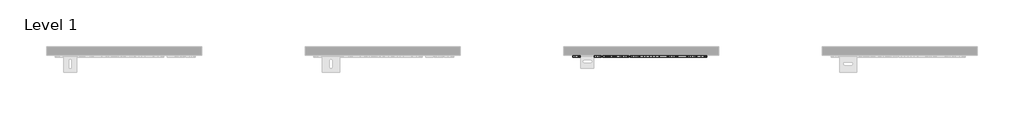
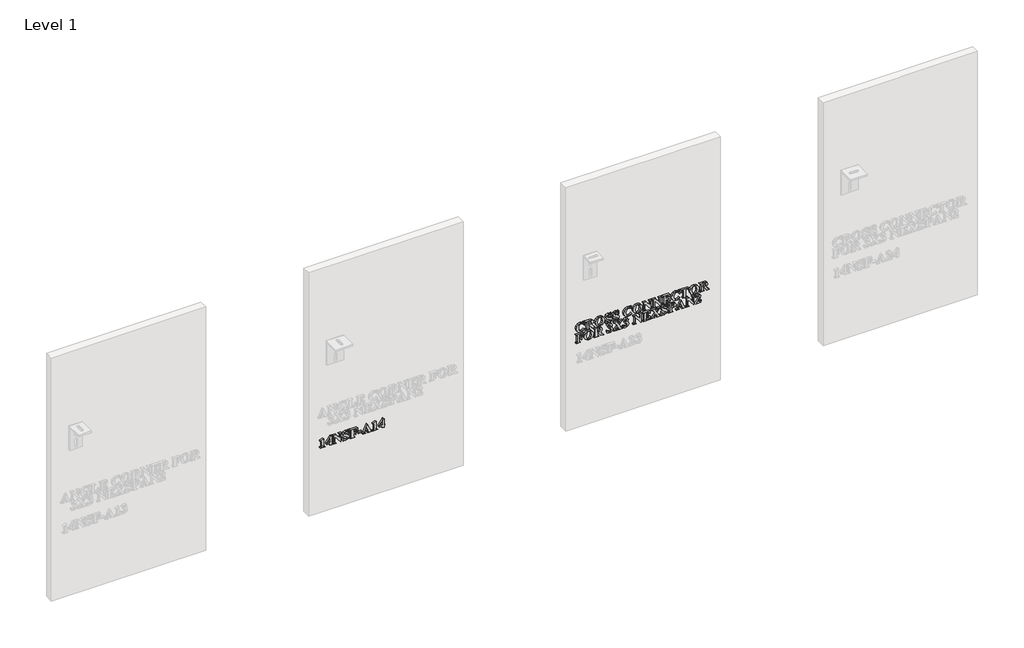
# One storey, part 5 of 21: 2 proxies.
"""IFC4 building model written with IfcOpenShell, lengths in millimetres."""

from ifc_helpers import new_model, si_unit, frame, origin, place, context, project, spatial, polyline, outline, extrude, element, save

model = new_model("IFC4")

# Units and contexts
model_context = context("Model", 3, world=origin())
ifc_project = project(units=[si_unit("LENGTHUNIT", "METRE", prefix="MILLI")], contexts=[model_context])

# Site, building, storey
site = spatial("IfcSite", under=ifc_project)
building = spatial("IfcBuilding", under=site)
storey = spatial("IfcBuildingStorey", under=building, Name="Level 1", Elevation=0.0)

# Proxies
placement = place(None, origin())
element("IfcBuildingElementProxy", 1, Name="2\"\" Arial", ObjectType="2\"\" Arial", at=placement, inside=storey, context=model_context, shape_type="SweptSolid", body=[
    extrude(outline(polyline([(463.8692305, 3912.4026674), (455.0050049, 3892.6451396), (453.2321598, 3893.3099565), (454.4648412, 3897.8667225), (453.827725, 3899.9442753), (452.3111114, 3901.1769567), (447.9136245, 3901.5093652), (421.3209478, 3901.5093652), (415.2544934, 3900.9899769), (413.2046413, 3899.0024514), (412.4567222, 3892.6451396), (410.6838771, 3892.6451396), (410.6838771, 3921.0106614), (412.4567222, 3919.77798), (413.273893, 3915.3043162), (415.3791466, 3913.4691445), (421.3209478, 3913.0328584), (463.8692305, 3912.4026674)])), frame((0.0, -15490.3579358, 0.0), z_axis=(0.0, 1.0, 0.0), x_axis=(0.0, 0.0, 1.0)), (0.0, 0.0, 1.0), 12.7),
    extrude(outline(polyline([(430.1851733, 3929.874887), (422.2073703, 3929.874887), (422.2073703, 3948.4897607), (410.6838771, 3948.4897607), (410.6838771, 3960.0132539), (422.2073703, 3960.0132539), (422.2073703, 3964.4453667), (430.1851733, 3964.4453667), (430.1851733, 3960.0132539), (463.8692305, 3960.0132539), (463.8692305, 3954.9024738), (430.1851733, 3929.874887)]), holes=[polyline([(430.1851733, 3932.5618553), (451.6116686, 3948.4897607), (430.1851733, 3948.4897607), (430.1851733, 3932.5618553)])]), frame((0.0, -15490.3579358, 0.0), z_axis=(0.0, 1.0, 0.0), x_axis=(0.0, 0.0, 1.0)), (0.0, 0.0, 1.0), 12.7),
    extrude(outline(polyline([(462.9828079, 3987.0768426), (462.9828079, 3968.6558738), (461.2099628, 3968.6558738), (460.6074725, 3972.319292), (457.4565173, 3975.9688599), (419.5481027, 3975.9688599), (414.097989, 3974.4106952), (412.4567222, 3968.8774794), (410.6838771, 3968.8774794), (410.6838771, 3986.6059306), (412.4567222, 3985.5117527), (413.9179344, 3981.3358715), (419.5481027, 3979.5145501), (452.9551528, 3979.5145501), (409.7974546, 4013.3371108), (409.7974546, 4014.9714524), (452.3457373, 4014.9714524), (457.7820006, 4015.6293441), (460.0673087, 4017.4645158), (461.2099628, 4022.0628328), (462.9828079, 4022.0628328), (462.9828079, 4004.3343817), (461.2099628, 4004.3343817), (458.9662057, 4010.1653801), (452.3457373, 4011.4257622), (431.9164674, 4011.4257622), (462.9828079, 3987.0768426)])), frame((0.0, -15490.3579358, 0.0), z_axis=(0.0, 1.0, 0.0), x_axis=(0.0, 0.0, 1.0)), (0.0, 0.0, 1.0), 12.7),
    extrude(outline(polyline([(463.8692305, 4062.8382704), (463.8692305, 4061.0654253), (460.9329558, 4059.9573971), (460.3235403, 4058.3230555), (461.5631468, 4054.5626848), (463.259815, 4050.0128441), (463.8692305, 4044.9297647), (459.5409954, 4032.9976861), (449.0493534, 4028.2677907), (442.4427353, 4029.9021323), (437.0064719, 4034.5835514), (431.0992966, 4045.4283774), (427.0549937, 4053.1845748), (423.7863105, 4056.4463328), (420.2267699, 4057.5197351), (414.7905066, 4054.8535422), (412.4567222, 4047.6859848), (416.771107, 4036.8342337), (429.2987508, 4030.0406358), (429.2987508, 4028.2677907), (409.7974546, 4028.2677907), (409.7974546, 4030.0406358), (412.4705726, 4031.8619572), (413.3431448, 4034.0018366), (412.4844229, 4037.0627645), (410.3583938, 4042.6098307), (409.7974546, 4047.298175), (414.4788737, 4060.3590573), (425.6699585, 4065.4975381), (434.76964, 4062.8798215), (443.218355, 4050.1928986), (447.7058692, 4041.051666), (451.2654098, 4037.1320163), (454.3263377, 4036.2455937), (459.1254848, 4038.6694054), (461.2099628, 4045.2483228), (457.0756326, 4055.2621276), (446.1407794, 4061.0654253), (446.1407794, 4062.8382704), (463.8692305, 4062.8382704)])), frame((0.0, -15490.3579358, 0.0), z_axis=(0.0, 1.0, 0.0), x_axis=(0.0, 0.0, 1.0)), (0.0, 0.0, 1.0), 12.7),
    extrude(outline(polyline([(459.4371177, 4089.4309471), (459.4371177, 4093.8630599), (458.8415526, 4102.4225777), (455.1296581, 4108.8352909), (447.0272019, 4111.591511), (447.0272019, 4113.3643561), (462.9828079, 4113.3643561), (462.9828079, 4069.9296509), (461.2099628, 4069.9296509), (461.2099628, 4071.6055435), (460.5035948, 4074.9573288), (458.8484777, 4076.6124459), (454.1185824, 4077.0210313), (419.5481027, 4077.0210313), (414.963636, 4076.6193711), (413.2184916, 4075.123533), (412.4567222, 4071.6055435), (412.4567222, 4069.9296509), (410.6838771, 4069.9296509), (410.6838771, 4096.5223276), (412.4567222, 4096.5223276), (412.4567222, 4094.8602853), (413.1630902, 4091.5154252), (414.8182073, 4089.8533829), (419.5481027, 4089.4309471), (435.5037087, 4089.4309471), (435.5037087, 4091.2037922), (433.0868222, 4098.1151181), (423.0937929, 4101.8408629), (423.0937929, 4103.613708), (451.4593147, 4103.613708), (451.4593147, 4101.8408629), (444.0770768, 4099.9849157), (440.1989782, 4096.501552), (439.0493989, 4091.2037922), (439.0493989, 4089.4309471), (459.4371177, 4089.4309471)])), frame((0.0, -15490.3579358, 0.0), z_axis=(0.0, 1.0, 0.0), x_axis=(0.0, 0.0, 1.0)), (0.0, 0.0, 1.0), 12.7),
    extrude(outline(polyline([(4139.0706103, -15490.3579358), (4116.9100464, -15490.3579358), (4116.9100464, -15477.6579358), (4139.0706103, -15477.6579358), (4139.0706103, -15490.3579358)])), frame((0.0, 0.0, 424.866638), z_axis=(0.0, 0.0, 1.0), x_axis=(1.0, 0.0, 0.0)), (0.0, 0.0, 1.0), 7.977803),
    extrude(outline(polyline([(425.7530606, 4174.9153224), (419.1048914, 4177.8377468), (414.963636, 4179.222782), (413.273893, 4178.3779105), (412.4567222, 4173.0593752), (410.6838771, 4173.0593752), (410.6838771, 4198.4609215), (412.4567222, 4198.4609215), (413.8140568, 4194.7628774), (421.3070974, 4190.3307647), (463.8692305, 4170.6771145), (422.470527, 4151.8544856), (414.7420304, 4147.3877469), (412.4567222, 4142.7686544), (410.6838771, 4142.7686544), (410.6838771, 4160.5386566), (412.4567222, 4160.5386566), (413.3431448, 4155.4140261), (416.4317734, 4153.641181), (420.4345252, 4154.7215085), (425.7530606, 4157.1314699), (425.7530606, 4174.9153224)]), holes=[polyline([(429.2987508, 4173.3640829), (429.2987508, 4158.7381107), (445.6421667, 4166.1480493), (429.2987508, 4173.3640829)])]), frame((0.0, -15490.3579358, 0.0), z_axis=(0.0, 1.0, 0.0), x_axis=(0.0, 0.0, 1.0)), (0.0, 0.0, 1.0), 12.7),
    extrude(outline(polyline([(463.8692305, 4223.5369846), (455.0050049, 4203.7794569), (453.2321598, 4204.4442738), (454.4648412, 4209.0010397), (453.827725, 4211.0785926), (452.3111114, 4212.311274), (447.9136245, 4212.6436824), (421.3209478, 4212.6436824), (415.2544934, 4212.1242942), (413.2046413, 4210.1367686), (412.4567222, 4203.7794569), (410.6838771, 4203.7794569), (410.6838771, 4232.1449787), (412.4567222, 4230.9122973), (413.273893, 4226.4386335), (415.3791466, 4224.6034618), (421.3209478, 4224.1671757), (463.8692305, 4223.5369846)])), frame((0.0, -15490.3579358, 0.0), z_axis=(0.0, 1.0, 0.0), x_axis=(0.0, 0.0, 1.0)), (0.0, 0.0, 1.0), 12.7),
    extrude(outline(polyline([(430.1851733, 4241.0092042), (422.2073703, 4241.0092042), (422.2073703, 4259.6240779), (410.6838771, 4259.6240779), (410.6838771, 4271.1475712), (422.2073703, 4271.1475712), (422.2073703, 4275.5796839), (430.1851733, 4275.5796839), (430.1851733, 4271.1475712), (463.8692305, 4271.1475712), (463.8692305, 4266.0367911), (430.1851733, 4241.0092042)]), holes=[polyline([(430.1851733, 4243.6961726), (451.6116686, 4259.6240779), (430.1851733, 4259.6240779), (430.1851733, 4243.6961726)])]), frame((0.0, -15490.3579358, 0.0), z_axis=(0.0, 1.0, 0.0), x_axis=(0.0, 0.0, 1.0)), (0.0, 0.0, 1.0), 12.7),
])
element("IfcBuildingElementProxy", 2, Name="2\"\" Arial", ObjectType="2\"\" Arial", at=placement, inside=storey, context=model_context, shape_type="SweptSolid", body=[
    extrude(outline(polyline([(653.4647125, 5457.2755351), (653.4647125, 5455.50269), (650.7708189, 5454.3531107), (649.9190223, 5452.2617075), (651.2209554, 5447.8572954), (653.4647125, 5436.4723057), (649.8012943, 5422.6704295), (639.5035572, 5412.3449918), (625.4731502, 5408.5222945), (612.2460636, 5411.9918078), (602.710096, 5421.8463335), (599.3929366, 5436.4584554), (601.4220132, 5447.3863834), (607.9663047, 5456.3891125), (612.4676693, 5456.3891125), (605.0785062, 5448.0165745), (602.9386268, 5439.2700769), (605.854126, 5429.7964358), (614.4551948, 5424.4224991), (627.0797911, 5422.7050554), (639.8636664, 5425.0319146), (647.1420266, 5430.7659605), (649.9190223, 5439.3808797), (646.2625292, 5449.4431608), (635.7362614, 5455.50269), (635.7362614, 5457.2755351), (653.4647125, 5457.2755351)])), frame((0.0, -15490.3579358, 0.0), z_axis=(0.0, 1.0, 0.0), x_axis=(0.0, 0.0, 1.0)), (0.0, 0.0, 1.0), 12.7),
    extrude(outline(polyline([(624.2127681, 5482.9817892), (624.2127681, 5486.4166766), (600.2793591, 5503.2033038), (600.2793591, 5519.325114), (602.0522042, 5519.325114), (603.3956884, 5516.0564309), (607.7723998, 5512.9124009), (625.4592998, 5500.5024851), (628.9911397, 5507.455362), (638.395529, 5511.347311), (646.5326111, 5508.5841657), (651.2902072, 5501.4512342), (652.5782899, 5487.649358), (652.5782899, 5463.480493), (650.8054448, 5463.480493), (650.2029545, 5468.2657898), (648.5963136, 5470.0594104), (643.7140644, 5470.5718734), (609.1435847, 5470.5718734), (604.2751858, 5470.0594104), (602.6685449, 5468.2865653), (602.0522042, 5463.480493), (600.2793591, 5463.480493), (600.2793591, 5490.0731697), (602.0522042, 5490.0731697), (602.6546946, 5485.2878729), (604.2613354, 5483.4942523), (609.1435847, 5482.9817892), (624.2127681, 5482.9817892)]), holes=[polyline([(649.9190223, 5482.9817892), (649.9190223, 5487.1091942), (647.0450741, 5496.139624), (638.160073, 5498.9373952), (631.4288018, 5497.4138565), (627.862336, 5493.2241249), (626.8720358, 5485.1839953), (626.8720358, 5482.9817892), (649.9190223, 5482.9817892)])]), frame((0.0, -15490.3579358, 0.0), z_axis=(0.0, 1.0, 0.0), x_axis=(0.0, 0.0, 1.0)), (0.0, 0.0, 1.0), 12.7),
    extrude(outline(polyline([(653.4647125, 5549.1172221), (651.8788471, 5538.5753726), (646.1794271, 5529.8306064), (637.4606302, 5523.9459379), (626.8166344, 5521.9843817), (617.1733265, 5523.4906075), (608.9358294, 5528.009285), (601.7786598, 5537.2266946), (599.3929366, 5549.6158348), (601.8929252, 5561.9738118), (609.392891, 5571.1808336), (626.8581854, 5576.9425802), (637.4969874, 5575.010456), (646.2002026, 5569.2140835), (651.884041, 5560.3256199), (653.4647125, 5549.1172221)]), holes=[polyline([(650.8054448, 5549.5742838), (648.6863409, 5556.1878271), (641.4356814, 5560.9107972), (625.9440622, 5562.7598193), (611.8444034, 5560.9454231), (603.9774032, 5555.8761941), (602.0522042, 5549.505032), (606.5120177, 5540.6823575), (626.2487699, 5536.1671426), (643.4924587, 5539.089567), (648.9771983, 5543.511292), (650.8054448, 5549.5742838)])]), frame((0.0, -15490.3579358, 0.0), z_axis=(0.0, 1.0, 0.0), x_axis=(0.0, 0.0, 1.0)), (0.0, 0.0, 1.0), 12.7),
    extrude(outline(polyline([(653.4647125, 5618.6044403), (653.4647125, 5616.8315952), (650.5284378, 5615.723567), (649.9190223, 5614.0892254), (651.1586288, 5610.3288548), (652.855297, 5605.779014), (653.4647125, 5600.6959346), (649.1364773, 5588.763856), (638.6448354, 5584.0339606), (632.0382173, 5585.6683022), (626.6019539, 5590.3497214), (620.6947786, 5601.1945473), (616.6504757, 5608.9507447), (613.3817925, 5612.2125027), (609.8222519, 5613.285905), (604.3859886, 5610.6197122), (602.0522042, 5603.4521548), (606.366589, 5592.6004036), (618.8942328, 5585.8068058), (618.8942328, 5584.0339606), (599.3929366, 5584.0339606), (599.3929366, 5585.8068058), (602.0660546, 5587.6281271), (602.9386268, 5589.7680066), (602.0799049, 5592.8289344), (599.9538758, 5598.3760006), (599.3929366, 5603.0643449), (604.0743557, 5616.1252273), (615.2654405, 5621.263708), (624.365122, 5618.6459914), (632.813837, 5605.9590686), (637.3013512, 5596.8178359), (640.8608918, 5592.8981862), (643.9218197, 5592.0117637), (648.7209668, 5594.4355753), (650.8054448, 5601.0144927), (646.6711146, 5611.0282976), (635.7362614, 5616.8315952), (635.7362614, 5618.6044403), (653.4647125, 5618.6044403)])), frame((0.0, -15490.3579358, 0.0), z_axis=(0.0, 1.0, 0.0), x_axis=(0.0, 0.0, 1.0)), (0.0, 0.0, 1.0), 12.7),
    extrude(outline(polyline([(653.4647125, 5662.0391456), (653.4647125, 5660.2663005), (650.5284378, 5659.1582723), (649.9190223, 5657.5239307), (651.1586288, 5653.76356), (652.855297, 5649.2137192), (653.4647125, 5644.1306399), (649.1364773, 5632.1985613), (638.6448354, 5627.4686659), (632.0382173, 5629.1030075), (626.6019539, 5633.7844266), (620.6947786, 5644.6292526), (616.6504757, 5652.38545), (613.3817925, 5655.647208), (609.8222519, 5656.7206103), (604.3859886, 5654.0544174), (602.0522042, 5646.88686), (606.366589, 5636.0351089), (618.8942328, 5629.241511), (618.8942328, 5627.4686659), (599.3929366, 5627.4686659), (599.3929366, 5629.241511), (602.0660546, 5631.0628324), (602.9386268, 5633.2027118), (602.0799049, 5636.2636397), (599.9538758, 5641.8107059), (599.3929366, 5646.4990502), (604.0743557, 5659.5599325), (615.2654405, 5664.6984133), (624.365122, 5662.0806967), (632.813837, 5649.3937738), (637.3013512, 5640.2525412), (640.8608918, 5636.3328915), (643.9218197, 5635.4464689), (648.7209668, 5637.8702806), (650.8054448, 5644.449198), (646.6711146, 5654.4630028), (635.7362614, 5660.2663005), (635.7362614, 5662.0391456), (653.4647125, 5662.0391456)])), frame((0.0, -15490.3579358, 0.0), z_axis=(0.0, 1.0, 0.0), x_axis=(0.0, 0.0, 1.0)), (0.0, 0.0, 1.0), 12.7),
    extrude(outline(polyline([(653.4647125, 5738.2714854), (653.4647125, 5736.4986403), (650.7708189, 5735.3490611), (649.9190223, 5733.2576579), (651.2209554, 5728.8532458), (653.4647125, 5717.4682561), (649.8012943, 5703.6663799), (639.5035572, 5693.3409421), (625.4731502, 5689.5182448), (612.2460636, 5692.9877581), (602.710096, 5702.8422839), (599.3929366, 5717.4544057), (601.4220132, 5728.3823338), (607.9663047, 5737.3850629), (612.4676693, 5737.3850629), (605.0785062, 5729.0125248), (602.9386268, 5720.2660273), (605.854126, 5710.7923862), (614.4551948, 5705.4184495), (627.0797911, 5703.7010058), (639.8636664, 5706.027865), (647.1420266, 5711.7619109), (649.9190223, 5720.3768301), (646.2625292, 5730.4391111), (635.7362614, 5736.4986403), (635.7362614, 5738.2714854), (653.4647125, 5738.2714854)])), frame((0.0, -15490.3579358, 0.0), z_axis=(0.0, 1.0, 0.0), x_axis=(0.0, 0.0, 1.0)), (0.0, 0.0, 1.0), 12.7),
    extrude(outline(polyline([(653.4647125, 5773.3821289), (651.8788471, 5762.8402794), (646.1794271, 5754.0955131), (637.4606302, 5748.2108446), (626.8166344, 5746.2492885), (617.1733265, 5747.7555143), (608.9358294, 5752.2741918), (601.7786598, 5761.4916013), (599.3929366, 5773.8807416), (601.8929252, 5786.2387185), (609.392891, 5795.4457403), (626.8581854, 5801.2074869), (637.4969874, 5799.2753628), (646.2002026, 5793.4789903), (651.884041, 5784.5905266), (653.4647125, 5773.3821289)]), holes=[polyline([(650.8054448, 5773.8391905), (648.6863409, 5780.4527338), (641.4356814, 5785.175704), (625.9440622, 5787.024726), (611.8444034, 5785.2103299), (603.9774032, 5780.1411009), (602.0522042, 5773.7699388), (606.5120177, 5764.9472643), (626.2487699, 5760.4320494), (643.4924587, 5763.3544737), (648.9771983, 5767.7761987), (650.8054448, 5773.8391905)])]), frame((0.0, -15490.3579358, 0.0), z_axis=(0.0, 1.0, 0.0), x_axis=(0.0, 0.0, 1.0)), (0.0, 0.0, 1.0), 12.7),
    extrude(outline(polyline([(652.5782899, 5823.8389628), (652.5782899, 5805.4179941), (650.8054448, 5805.4179941), (650.2029545, 5809.0814123), (647.0519993, 5812.7309802), (609.1435847, 5812.7309802), (603.693471, 5811.1728155), (602.0522042, 5805.6395997), (600.2793591, 5805.6395997), (600.2793591, 5823.3680509), (602.0522042, 5822.273873), (603.5134164, 5818.0979918), (609.1435847, 5816.2766704), (642.5506348, 5816.2766704), (599.3929366, 5850.0992311), (599.3929366, 5851.7335727), (641.9412193, 5851.7335727), (647.3774826, 5852.3914644), (649.6627907, 5854.2266361), (650.8054448, 5858.8249531), (652.5782899, 5858.8249531), (652.5782899, 5841.096502), (650.8054448, 5841.096502), (648.5616877, 5846.9275004), (641.9412193, 5848.1878824), (621.5119494, 5848.1878824), (652.5782899, 5823.8389628)])), frame((0.0, -15490.3579358, 0.0), z_axis=(0.0, 1.0, 0.0), x_axis=(0.0, 0.0, 1.0)), (0.0, 0.0, 1.0), 12.7),
    extrude(outline(polyline([(652.5782899, 5880.5700064), (652.5782899, 5862.1490377), (650.8054448, 5862.1490377), (650.2029545, 5865.8124559), (647.0519993, 5869.4620238), (609.1435847, 5869.4620238), (603.693471, 5867.9038591), (602.0522042, 5862.3706433), (600.2793591, 5862.3706433), (600.2793591, 5880.0990945), (602.0522042, 5879.0049166), (603.5134164, 5874.8290354), (609.1435847, 5873.007714), (642.5506348, 5873.007714), (599.3929366, 5906.8302747), (599.3929366, 5908.4646163), (641.9412193, 5908.4646163), (647.3774826, 5909.122508), (649.6627907, 5910.9576797), (650.8054448, 5915.5559967), (652.5782899, 5915.5559967), (652.5782899, 5897.8275456), (650.8054448, 5897.8275456), (648.5616877, 5903.658544), (641.9412193, 5904.918926), (621.5119494, 5904.918926), (652.5782899, 5880.5700064)])), frame((0.0, -15490.3579358, 0.0), z_axis=(0.0, 1.0, 0.0), x_axis=(0.0, 0.0, 1.0)), (0.0, 0.0, 1.0), 12.7),
    extrude(outline(polyline([(649.0325997, 5939.4894057), (649.0325997, 5943.9215185), (648.3400821, 5951.9547229), (644.7320653, 5957.6472178), (636.6226839, 5960.7635471), (636.6226839, 5962.5363922), (652.5782899, 5962.5363922), (652.5782899, 5919.9881095), (650.8054448, 5919.9881095), (650.8054448, 5921.6640021), (649.7805187, 5925.5144001), (647.827619, 5926.8994354), (643.7140644, 5927.0794899), (609.1435847, 5927.0794899), (604.559118, 5926.6778297), (602.8139736, 5925.1819917), (602.0522042, 5921.6640021), (602.0522042, 5919.9881095), (600.2793591, 5919.9881095), (600.2793591, 5963.7967743), (616.8859317, 5964.7385982), (606.4427659, 5958.6236676), (602.9386268, 5947.3010045), (602.9386268, 5944.2816277), (603.5549675, 5941.1652984), (605.1339076, 5939.8425897), (610.4039667, 5939.4894057), (625.0991907, 5939.4894057), (624.0950401, 5944.4963081), (620.1753904, 5947.5295353), (612.6892749, 5949.2400539), (612.6892749, 5951.012899), (640.1683741, 5951.012899), (640.1683741, 5949.2400539), (630.9024884, 5946.7331401), (627.7584584, 5939.4894057), (649.0325997, 5939.4894057)])), frame((0.0, -15490.3579358, 0.0), z_axis=(0.0, 1.0, 0.0), x_axis=(0.0, 0.0, 1.0)), (0.0, 0.0, 1.0), 12.7),
    extrude(outline(polyline([(653.4647125, 6021.9267035), (653.4647125, 6020.1538584), (650.7708189, 6019.0042791), (649.9190223, 6016.9128759), (651.2209554, 6012.5084638), (653.4647125, 6001.1234741), (649.8012943, 5987.3215979), (639.5035572, 5976.9961602), (625.4731502, 5973.1734629), (612.2460636, 5976.6429762), (602.710096, 5986.4975019), (599.3929366, 6001.1096238), (601.4220132, 6012.0375518), (607.9663047, 6021.0402809), (612.4676693, 6021.0402809), (605.0785062, 6012.6677429), (602.9386268, 6003.9212453), (605.854126, 5994.4476042), (614.4551948, 5989.0736675), (627.0797911, 5987.3562238), (639.8636664, 5989.683083), (647.1420266, 5995.4171289), (649.9190223, 6004.0320481), (646.2625292, 6014.0943292), (635.7362614, 6020.1538584), (635.7362614, 6021.9267035), (653.4647125, 6021.9267035)])), frame((0.0, -15490.3579358, 0.0), z_axis=(0.0, 1.0, 0.0), x_axis=(0.0, 0.0, 1.0)), (0.0, 0.0, 1.0), 12.7),
    extrude(outline(polyline([(652.5782899, 6075.9984794), (652.5782899, 6029.9045065), (637.5091065, 6029.9045065), (637.5091065, 6031.6773516), (646.7195908, 6035.7770559), (649.0325997, 6043.2008448), (649.0325997, 6046.7465351), (609.1435847, 6046.7465351), (604.559118, 6046.3448748), (602.8139736, 6044.8213361), (602.0522042, 6041.3171969), (602.0522042, 6039.6551546), (600.2793591, 6039.6551546), (600.2793591, 6066.2478313), (602.0522042, 6066.2478313), (602.0522042, 6064.5996394), (602.7585722, 6061.2340037), (604.4136893, 6059.5788866), (609.1435847, 6059.1564508), (649.0325997, 6059.1564508), (649.0325997, 6062.7021411), (648.3123814, 6067.6328665), (644.7874667, 6071.5940673), (637.5091065, 6074.2256343), (637.5091065, 6075.9984794), (652.5782899, 6075.9984794)])), frame((0.0, -15490.3579358, 0.0), z_axis=(0.0, 1.0, 0.0), x_axis=(0.0, 0.0, 1.0)), (0.0, 0.0, 1.0), 12.7),
    extrude(outline(polyline([(653.4647125, 6109.3362777), (651.8788471, 6098.7944282), (646.1794271, 6090.049662), (637.4606302, 6084.1649935), (626.8166344, 6082.2034373), (617.1733265, 6083.7096631), (608.9358294, 6088.2283406), (601.7786598, 6097.4457502), (599.3929366, 6109.8348904), (601.8929252, 6122.1928674), (609.392891, 6131.3998892), (626.8581854, 6137.1616358), (637.4969874, 6135.2295116), (646.2002026, 6129.4331391), (651.884041, 6120.5446755), (653.4647125, 6109.3362777)]), holes=[polyline([(650.8054448, 6109.7933394), (648.6863409, 6116.4068827), (641.4356814, 6121.1298529), (625.9440622, 6122.9788749), (611.8444034, 6121.1644787), (603.9774032, 6116.0952497), (602.0522042, 6109.7240876), (606.5120177, 6100.9014131), (626.2487699, 6096.3861982), (643.4924587, 6099.3086226), (648.9771983, 6103.7303476), (650.8054448, 6109.7933394)])]), frame((0.0, -15490.3579358, 0.0), z_axis=(0.0, 1.0, 0.0), x_axis=(0.0, 0.0, 1.0)), (0.0, 0.0, 1.0), 12.7),
    extrude(outline(polyline([(624.2127681, 6161.0950448), (624.2127681, 6164.5299322), (600.2793591, 6181.3165594), (600.2793591, 6197.4383696), (602.0522042, 6197.4383696), (603.3956884, 6194.1696865), (607.7723998, 6191.0256565), (625.4592998, 6178.6157407), (628.9911397, 6185.5686176), (638.395529, 6189.4605666), (646.5326111, 6186.6974213), (651.2902072, 6179.5644898), (652.5782899, 6165.7626136), (652.5782899, 6141.5937486), (650.8054448, 6141.5937486), (650.2029545, 6146.3790454), (648.5963136, 6148.172666), (643.7140644, 6148.685129), (609.1435847, 6148.685129), (604.2751858, 6148.172666), (602.6685449, 6146.3998209), (602.0522042, 6141.5937486), (600.2793591, 6141.5937486), (600.2793591, 6168.1864253), (602.0522042, 6168.1864253), (602.6546946, 6163.4011285), (604.2613354, 6161.6075079), (609.1435847, 6161.0950448), (624.2127681, 6161.0950448)]), holes=[polyline([(649.9190223, 6161.0950448), (649.9190223, 6165.2224499), (647.0450741, 6174.2528796), (638.160073, 6177.0506508), (631.4288018, 6175.5271121), (627.862336, 6171.3373805), (626.8720358, 6163.2972509), (626.8720358, 6161.0950448), (649.9190223, 6161.0950448)])]), frame((0.0, -15490.3579358, 0.0), z_axis=(0.0, 1.0, 0.0), x_axis=(0.0, 0.0, 1.0)), (0.0, 0.0, 1.0), 12.7),
    extrude(outline(polyline([(584.9362614, 5427.1371682), (584.9362614, 5431.569281), (584.3406962, 5440.1287988), (580.6288018, 5446.5415119), (572.5263456, 5449.2977321), (572.5263456, 5451.0705772), (588.4819516, 5451.0705772), (588.4819516, 5407.6358719), (586.7091065, 5407.6358719), (586.7091065, 5409.3117646), (586.0027385, 5412.6635499), (584.3476214, 5414.318667), (579.617726, 5414.7272524), (545.0472463, 5414.7272524), (540.4627797, 5414.3255922), (538.7176353, 5412.8297541), (537.9558659, 5409.3117646), (537.9558659, 5407.6358719), (536.1830208, 5407.6358719), (536.1830208, 5434.2285486), (537.9558659, 5434.2285486), (537.9558659, 5432.5665063), (538.6622338, 5429.2216462), (540.317351, 5427.5596039), (545.0472463, 5427.1371682), (561.0028523, 5427.1371682), (561.0028523, 5428.9100133), (558.5859658, 5435.8213392), (548.5929366, 5439.547084), (548.5929366, 5441.3199291), (576.9584584, 5441.3199291), (576.9584584, 5439.547084), (569.5762205, 5437.6911367), (565.6981218, 5434.2077731), (564.5485426, 5428.9100133), (564.5485426, 5427.1371682), (584.9362614, 5427.1371682)])), frame((0.0, -15490.3579358, 0.0), z_axis=(0.0, 1.0, 0.0), x_axis=(0.0, 0.0, 1.0)), (0.0, 0.0, 1.0), 12.7),
    extrude(outline(polyline([(589.3683741, 5483.521953), (587.7825088, 5472.9801035), (582.0830888, 5464.2353372), (573.3642919, 5458.3506687), (562.720296, 5456.3891125), (553.0769882, 5457.8953384), (544.839491, 5462.4140158), (537.6823214, 5471.6314254), (535.2965982, 5484.0205657), (537.7965868, 5496.3785426), (545.2965527, 5505.5855644), (562.7618471, 5511.347311), (573.4006491, 5509.4151869), (582.1038643, 5503.6188144), (587.7877027, 5494.7303507), (589.3683741, 5483.521953)]), holes=[polyline([(586.7091065, 5483.9790146), (584.5900026, 5490.5925579), (577.339343, 5495.3155281), (561.8477238, 5497.1645501), (547.7480651, 5495.350154), (539.8810649, 5490.280925), (537.9558659, 5483.9097628), (542.4156794, 5475.0870883), (562.1524316, 5470.5718734), (579.3961204, 5473.4942978), (584.88086, 5477.9160228), (586.7091065, 5483.9790146)])]), frame((0.0, -15490.3579358, 0.0), z_axis=(0.0, 1.0, 0.0), x_axis=(0.0, 0.0, 1.0)), (0.0, 0.0, 1.0), 12.7),
    extrude(outline(polyline([(560.1164298, 5535.28072), (560.1164298, 5538.7156075), (536.1830208, 5555.5022346), (536.1830208, 5571.6240449), (537.9558659, 5571.6240449), (539.2993501, 5568.3553617), (543.6760614, 5565.2113317), (561.3629615, 5552.8014159), (564.8948014, 5559.7542928), (574.2991907, 5563.6462418), (582.4362727, 5560.8830965), (587.1938688, 5553.750165), (588.4819516, 5539.9482888), (588.4819516, 5515.7794238), (586.7091065, 5515.7794238), (586.1066161, 5520.5647206), (584.4999753, 5522.3583412), (579.617726, 5522.8708043), (545.0472463, 5522.8708043), (540.1788474, 5522.3583412), (538.5722066, 5520.5854961), (537.9558659, 5515.7794238), (536.1830208, 5515.7794238), (536.1830208, 5542.3721005), (537.9558659, 5542.3721005), (538.5583562, 5537.5868037), (540.1649971, 5535.7931831), (545.0472463, 5535.28072), (560.1164298, 5535.28072)]), holes=[polyline([(585.8226839, 5535.28072), (585.8226839, 5539.4081251), (582.9487358, 5548.4385549), (574.0637347, 5551.2363261), (567.3324634, 5549.7127873), (563.7659977, 5545.5230557), (562.7756975, 5537.4829261), (562.7756975, 5535.28072), (585.8226839, 5535.28072)])]), frame((0.0, -15490.3579358, 0.0), z_axis=(0.0, 1.0, 0.0), x_axis=(0.0, 0.0, 1.0)), (0.0, 0.0, 1.0), 12.7),
    extrude(outline(polyline([(564.5485426, 5600.8759892), (558.3782106, 5612.7665168), (548.6206373, 5616.8315952), (542.8796662, 5614.7263417), (540.6151335, 5609.6848134), (543.7314628, 5602.4272287), (547.1524999, 5597.9258641), (547.706514, 5595.4605014), (546.2176011, 5592.4341994), (542.6234346, 5591.1253411), (537.9004645, 5593.3829485), (535.2965982, 5603.3275016), (536.8114805, 5612.5033601), (541.3561274, 5619.6155161), (548.0648919, 5624.1757446), (556.0721269, 5625.6958208), (564.6177943, 5622.8564985), (570.3518402, 5614.6155388), (574.5554222, 5621.0005513), (579.5207736, 5623.0365531), (586.4182491, 5619.4008356), (589.3683741, 5610.1695757), (586.9237869, 5600.2180975), (579.105263, 5593.7846088), (584.0498388, 5603.1751477), (581.6883537, 5609.1238741), (576.0304847, 5611.5130599), (571.3282901, 5610.2319023), (567.8795523, 5607.1917499), (564.5485426, 5600.8759892)])), frame((0.0, -15490.3579358, 0.0), z_axis=(0.0, 1.0, 0.0), x_axis=(0.0, 0.0, 1.0)), (0.0, 0.0, 1.0), 12.7),
    extrude(outline(polyline([(566.5845444, 5663.2302759), (578.4681468, 5672.7177673), (584.2021927, 5677.7315949), (586.1481672, 5680.6955703), (586.7091065, 5684.3520634), (588.4819516, 5684.3520634), (588.4819516, 5664.9200189), (586.7091065, 5664.9200189), (586.2243441, 5668.382607), (584.88086, 5670.1000507), (583.0110624, 5670.6956159), (575.9473826, 5666.457408), (569.5069687, 5661.3050769), (579.146814, 5654.9754659), (584.3406962, 5652.0530415), (586.0304392, 5652.939464), (586.7091065, 5657.3577265), (588.4819516, 5657.3577265), (588.4819516, 5631.8176766), (586.7091065, 5631.8176766), (585.9334867, 5634.5877471), (584.2021927, 5636.6237489), (579.0775623, 5640.363344), (559.4377625, 5653.2718725), (546.8616425, 5643.2026663), (539.7425613, 5636.000483), (537.9558659, 5630.6126959), (536.1830208, 5630.6126959), (536.1830208, 5650.9588636), (537.9558659, 5650.9588636), (538.1774715, 5647.6486294), (539.4655543, 5644.9131848), (541.4046036, 5643.9921364), (547.000146, 5647.5655273), (556.5291885, 5655.1832211), (545.781315, 5662.2469009), (540.4627797, 5665.2108763), (538.8422884, 5664.3244538), (537.9558659, 5660.404804), (536.1830208, 5660.404804), (536.1830208, 5685.6955476), (537.9558659, 5685.6955476), (539.2993501, 5682.0944559), (545.6428115, 5676.9836759), (566.5845444, 5663.2302759)])), frame((0.0, -15490.3579358, 0.0), z_axis=(0.0, 1.0, 0.0), x_axis=(0.0, 0.0, 1.0)), (0.0, 0.0, 1.0), 12.7),
    extrude(outline(polyline([(564.5485426, 5696.6096253), (558.3782106, 5708.5001529), (548.6206373, 5712.5652313), (542.8796662, 5710.4599777), (540.6151335, 5705.4184495), (543.7314628, 5698.1608648), (547.1524999, 5693.6595002), (547.706514, 5691.1941375), (546.2176011, 5688.1678355), (542.6234346, 5686.8589772), (537.9004645, 5689.1165846), (535.2965982, 5699.0611377), (536.8114805, 5708.2369962), (541.3561274, 5715.3491522), (548.0648919, 5719.9093807), (556.0721269, 5721.4294569), (564.6177943, 5718.5901346), (570.3518402, 5710.3491749), (574.5554222, 5716.7341874), (579.5207736, 5718.7701892), (586.4182491, 5715.1344717), (589.3683741, 5705.9032118), (586.9237869, 5695.9517336), (579.105263, 5689.5182448), (584.0498388, 5698.9087838), (581.6883537, 5704.8575102), (576.0304847, 5707.246696), (571.3282901, 5705.9655384), (567.8795523, 5702.925386), (564.5485426, 5696.6096253)])), frame((0.0, -15490.3579358, 0.0), z_axis=(0.0, 1.0, 0.0), x_axis=(0.0, 0.0, 1.0)), (0.0, 0.0, 1.0), 12.7),
    extrude(outline(polyline([(588.4819516, 5765.3350741), (588.4819516, 5746.9141054), (586.7091065, 5746.9141054), (586.1066161, 5750.5775236), (582.955661, 5754.2270915), (545.0472463, 5754.2270915), (539.5971326, 5752.6689268), (537.9558659, 5747.135711), (536.1830208, 5747.135711), (536.1830208, 5764.8641621), (537.9558659, 5763.7699843), (539.4170781, 5759.594103), (545.0472463, 5757.7727817), (578.4542964, 5757.7727817), (535.2965982, 5791.5953424), (535.2965982, 5793.2296839), (577.8448809, 5793.2296839), (583.2811442, 5793.8875757), (585.5664524, 5795.7227474), (586.7091065, 5800.3210644), (588.4819516, 5800.3210644), (588.4819516, 5782.5926133), (586.7091065, 5782.5926133), (584.4653494, 5788.4236116), (577.8448809, 5789.6839937), (557.4156111, 5789.6839937), (588.4819516, 5765.3350741)])), frame((0.0, -15490.3579358, 0.0), z_axis=(0.0, 1.0, 0.0), x_axis=(0.0, 0.0, 1.0)), (0.0, 0.0, 1.0), 12.7),
    extrude(outline(polyline([(584.9362614, 5824.2544734), (584.9362614, 5828.6865862), (584.2437437, 5836.7197906), (580.6357269, 5842.4122855), (572.5263456, 5845.5286148), (572.5263456, 5847.3014599), (588.4819516, 5847.3014599), (588.4819516, 5804.7531772), (586.7091065, 5804.7531772), (586.7091065, 5806.4290698), (585.6841804, 5810.2794678), (583.7312807, 5811.664503), (579.617726, 5811.8445576), (545.0472463, 5811.8445576), (540.4627797, 5811.4428974), (538.7176353, 5809.9470593), (537.9558659, 5806.4290698), (537.9558659, 5804.7531772), (536.1830208, 5804.7531772), (536.1830208, 5848.561842), (552.7895933, 5849.5036659), (542.3464276, 5843.3887353), (538.8422884, 5832.0660722), (538.8422884, 5829.0466954), (539.4586291, 5825.9303661), (541.0375693, 5824.6076574), (546.3076284, 5824.2544734), (561.0028523, 5824.2544734), (559.9987018, 5829.2613758), (556.079052, 5832.294603), (548.5929366, 5834.0051215), (548.5929366, 5835.7779666), (576.0720358, 5835.7779666), (576.0720358, 5834.0051215), (566.80615, 5831.4982077), (563.66212, 5824.2544734), (584.9362614, 5824.2544734)])), frame((0.0, -15490.3579358, 0.0), z_axis=(0.0, 1.0, 0.0), x_axis=(0.0, 0.0, 1.0)), (0.0, 0.0, 1.0), 12.7),
    extrude(outline(polyline([(566.5845444, 5887.4951827), (578.4681468, 5896.9826741), (584.2021927, 5901.9965017), (586.1481672, 5904.9604771), (586.7091065, 5908.6169701), (588.4819516, 5908.6169701), (588.4819516, 5889.1849257), (586.7091065, 5889.1849257), (586.2243441, 5892.6475138), (584.88086, 5894.3649575), (583.0110624, 5894.9605226), (575.9473826, 5890.7223148), (569.5069687, 5885.5699837), (579.146814, 5879.2403726), (584.3406962, 5876.3179482), (586.0304392, 5877.2043708), (586.7091065, 5881.6226332), (588.4819516, 5881.6226332), (588.4819516, 5856.0825833), (586.7091065, 5856.0825833), (585.9334867, 5858.8526538), (584.2021927, 5860.8886556), (579.0775623, 5864.6282508), (559.4377625, 5877.5367793), (546.8616425, 5867.467573), (539.7425613, 5860.2653898), (537.9558659, 5854.8776027), (536.1830208, 5854.8776027), (536.1830208, 5875.2237704), (537.9558659, 5875.2237704), (538.1774715, 5871.9135362), (539.4655543, 5869.1780916), (541.4046036, 5868.2570431), (547.000146, 5871.8304341), (556.5291885, 5879.4481279), (545.781315, 5886.5118076), (540.4627797, 5889.4757831), (538.8422884, 5888.5893605), (537.9558659, 5884.6697108), (536.1830208, 5884.6697108), (536.1830208, 5909.9604543), (537.9558659, 5909.9604543), (539.2993501, 5906.3593627), (545.6428115, 5901.2485826), (566.5845444, 5887.4951827)])), frame((0.0, -15490.3579358, 0.0), z_axis=(0.0, 1.0, 0.0), x_axis=(0.0, 0.0, 1.0)), (0.0, 0.0, 1.0), 12.7),
    extrude(outline(polyline([(589.3683741, 5949.2400539), (589.3683741, 5947.4672087), (586.4320994, 5946.3591806), (585.8226839, 5944.724839), (587.0622905, 5940.9644683), (588.7589586, 5936.4146275), (589.3683741, 5931.3315481), (585.040139, 5919.3994695), (574.548497, 5914.6695742), (567.9418789, 5916.3039157), (562.5056156, 5920.9853349), (556.5984403, 5931.8301608), (552.5541373, 5939.5863582), (549.2854542, 5942.8481162), (545.7259136, 5943.9215185), (540.2896503, 5941.2553257), (537.9558659, 5934.0877683), (542.2702507, 5923.2360171), (554.7978944, 5916.4424193), (554.7978944, 5914.6695742), (535.2965982, 5914.6695742), (535.2965982, 5916.4424193), (537.9697162, 5918.2637406), (538.8422884, 5920.4036201), (537.9835666, 5923.464548), (535.8575375, 5929.0116141), (535.2965982, 5933.6999584), (539.9780173, 5946.7608408), (551.1691021, 5951.8993215), (560.2687837, 5949.2816049), (568.7174987, 5936.5946821), (573.2050128, 5927.4534495), (576.7645534, 5923.5337997), (579.8254813, 5922.6473772), (584.6246284, 5925.0711888), (586.7091065, 5931.6501063), (582.5747763, 5941.6639111), (571.639923, 5947.4672087), (571.639923, 5949.2400539), (589.3683741, 5949.2400539)])), frame((0.0, -15490.3579358, 0.0), z_axis=(0.0, 1.0, 0.0), x_axis=(0.0, 0.0, 1.0)), (0.0, 0.0, 1.0), 12.7),
    extrude(outline(polyline([(560.1164298, 5974.946308), (561.030553, 5988.2010953), (565.9266526, 5997.3354027), (574.5623474, 6000.6525621), (584.5069004, 5995.6041087), (588.4819516, 5978.9490598), (588.4819516, 5955.4450118), (586.7091065, 5955.4450118), (586.1066161, 5960.2303085), (584.4999753, 5962.0239292), (579.617726, 5962.5363922), (545.0472463, 5962.5363922), (540.1788474, 5962.0239292), (538.5722066, 5960.2510841), (537.9558659, 5955.4450118), (536.1830208, 5955.4450118), (536.1830208, 5982.0376884), (537.9558659, 5982.0376884), (538.5583562, 5977.266242), (540.1649971, 5975.458771), (545.0472463, 5974.946308), (560.1164298, 5974.946308)]), holes=[polyline([(585.8226839, 5974.946308), (585.8226839, 5976.7330035), (583.0664638, 5985.3548479), (574.3822928, 5988.2426463), (565.5457679, 5985.3548479), (562.6925953, 5977.1346637), (562.7756975, 5974.946308), (585.8226839, 5974.946308)])]), frame((0.0, -15490.3579358, 0.0), z_axis=(0.0, 1.0, 0.0), x_axis=(0.0, 0.0, 1.0)), (0.0, 0.0, 1.0), 12.7),
    extrude(outline(polyline([(551.2522042, 6034.7244291), (544.604035, 6037.6468535), (540.4627797, 6039.0318887), (538.7730367, 6038.1870172), (537.9558659, 6032.8684819), (536.1830208, 6032.8684819), (536.1830208, 6058.2700283), (537.9558659, 6058.2700283), (539.3132004, 6054.5719842), (546.8062411, 6050.1398714), (589.3683741, 6030.4862213), (547.9696707, 6011.6635923), (540.241174, 6007.1968537), (537.9558659, 6002.5777611), (536.1830208, 6002.5777611), (536.1830208, 6020.3477633), (537.9558659, 6020.3477633), (538.8422884, 6015.2231329), (541.930917, 6013.4502878), (545.9336689, 6014.5306153), (551.2522042, 6016.9405766), (551.2522042, 6034.7244291)]), holes=[polyline([(554.7978944, 6033.1731897), (554.7978944, 6018.5472175), (571.1413103, 6025.957156), (554.7978944, 6033.1731897)])]), frame((0.0, -15490.3579358, 0.0), z_axis=(0.0, 1.0, 0.0), x_axis=(0.0, 0.0, 1.0)), (0.0, 0.0, 1.0), 12.7),
    extrude(outline(polyline([(588.4819516, 6078.2422365), (588.4819516, 6059.8212678), (586.7091065, 6059.8212678), (586.1066161, 6063.484686), (582.955661, 6067.1342539), (545.0472463, 6067.1342539), (539.5971326, 6065.5760892), (537.9558659, 6060.0428734), (536.1830208, 6060.0428734), (536.1830208, 6077.7713245), (537.9558659, 6076.6771467), (539.4170781, 6072.5012654), (545.0472463, 6070.6799441), (578.4542964, 6070.6799441), (535.2965982, 6104.5025047), (535.2965982, 6106.1368463), (577.8448809, 6106.1368463), (583.2811442, 6106.7947381), (585.5664524, 6108.6299098), (586.7091065, 6113.2282268), (588.4819516, 6113.2282268), (588.4819516, 6095.4997757), (586.7091065, 6095.4997757), (584.4653494, 6101.330774), (577.8448809, 6102.5911561), (557.4156111, 6102.5911561), (588.4819516, 6078.2422365)])), frame((0.0, -15490.3579358, 0.0), z_axis=(0.0, 1.0, 0.0), x_axis=(0.0, 0.0, 1.0)), (0.0, 0.0, 1.0), 12.7),
    extrude(outline(polyline([(536.1830208, 6147.3139441), (551.2522042, 6148.9344354), (548.1635756, 6146.836107), (547.1247992, 6144.8001052), (546.8200914, 6139.446944), (546.8200914, 6128.2835599), (566.3906394, 6145.0009353), (576.6260499, 6147.7987065), (582.5609259, 6145.9081334), (587.5470528, 6140.6796253), (589.3683741, 6133.2973875), (585.864235, 6123.3043582), (574.548497, 6118.2836054), (579.0152357, 6122.4525615), (580.5041486, 6128.0342535), (577.8241054, 6134.5092933), (571.0997593, 6137.1616358), (559.7286199, 6134.0591569), (536.1830208, 6115.8874945), (536.1830208, 6147.3139441)])), frame((0.0, -15490.3579358, 0.0), z_axis=(0.0, 1.0, 0.0), x_axis=(0.0, 0.0, 1.0)), (0.0, 0.0, 1.0), 12.7),
])

save(model, "model.ifc")
